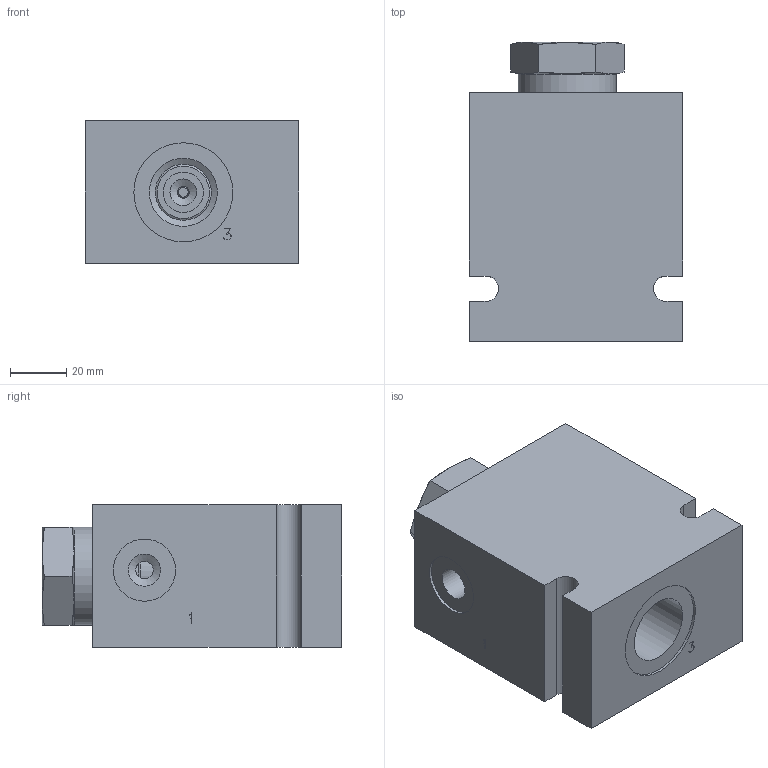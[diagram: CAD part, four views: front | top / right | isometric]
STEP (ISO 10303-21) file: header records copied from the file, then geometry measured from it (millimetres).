
FILE_DESCRIPTION( ( 'Unknown' ), '1' );
FILE_NAME( 'G:/Graphic Design/Graphic Design 2/Data Sheets/PRESSURE CONTROLS/2_STEP/Pressure Compensated Regulator Valves/D-TRPCA00-D2.stp', 'Unknown', ( 'Unknown' ), ( 'Unknown' ), 'PSStep 16.0.42', 'Unknown', ' ' );
FILE_SCHEMA( ( 'AUTOMOTIVE_DESIGN { 1 0 10303 214 1 1 1 1 }' ) );
Length unit declared in the file: millimetre
Products named in the file (9): TRPCA00; TRPCA00-3D Full1; TRPCA00-3D Full2; TRPCA00-3D Full3; TRPCA00-3D Full4; TRPCA00-3D Full5; TRPCA00-3D Full6; Assem1; B-DTRD3
Assembly tree (8 placements, depth 3):
  Assem1
    B-DTRD3
    TRPCA00
      TRPCA00-3D Full1
      TRPCA00-3D Full2
      TRPCA00-3D Full3
      TRPCA00-3D Full4
      TRPCA00-3D Full5
      TRPCA00-3D Full6
Bounding box: 76.2 x 106.9 x 50.8 mm (x, y, z)
Surface area: 53438.4 mm2 (no closed solid volume)
Topology: 0 solids, 230 shells, 230 faces, 973 edges, 872 vertices
Faces by surface type: plane 114, cylinder 76, cone 36, torus 4
Full cylindrical faces by diameter (mm): 0.2 x3, 1.524 x1, 4.775 x16, 6.3 x1, 9.525 x1, 11.5 x2, 12 x1, 14.295 x1, 18.085 x1, 18.136 x1, 18.237 x1, 19.66 x1, 19.71 x1, 20 x1, 20.625 x1, 22.149 x2, 22.22 x1, 22.25 x1, 22.26 x1, 22.454 x1, 23.419 x1, 23.724 x2, 23.825 x1, 23.83 x1, 23.84 x1, 24.003 x1, 24.028 x1, 24.3 x4, 24.689 x1, 24.696 x2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
Entity records: 14572 total; most frequent: CARTESIAN_POINT 6235, DIRECTION 1146, VERTEX_POINT 843, ORIENTED_EDGE 840, EDGE_CURVE 840, AXIS2_PLACEMENT_3D 468, B_SPLINE_CURVE_WITH_KNOTS 370, FACE_BOUND 366
